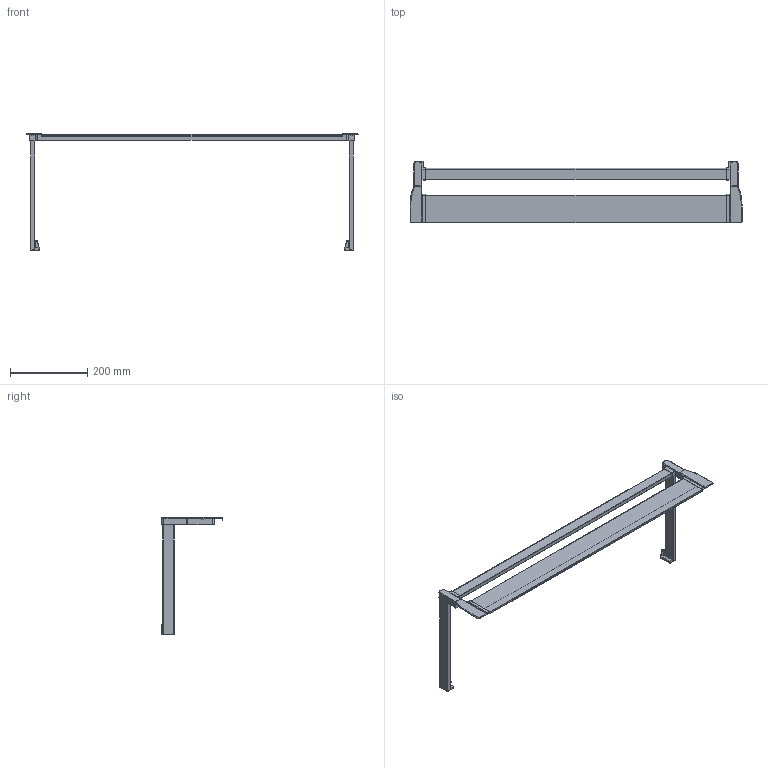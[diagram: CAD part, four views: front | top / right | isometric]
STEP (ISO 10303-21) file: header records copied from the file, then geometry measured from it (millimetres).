
FILE_DESCRIPTION (( 'STEP AP214' ), '1' );
FILE_NAME ('1_P620_NL 300_KAB 900_16er KS_.step', '2009-09-16T06:29:05', ( 'Waldinger Reinhard' ), ( 'Grass GmbH' ), 'SwSTEP 2.0', 'SolidWorks 2009', '' );
FILE_SCHEMA (( 'AUTOMOTIVE_DESIGN' ));
Length unit declared in the file: millimetre
Products named in the file (1): 1_P620_NL 300_KAB 900_16er KS_
Bounding box: 859.6 x 160.5 x 302.8 mm (x, y, z)
Volume: 1206320.7 mm3; surface area: 280940.3 mm2
Topology: 1 solids, 1 shells, 218 faces, 576 edges, 364 vertices
Faces by surface type: plane 97, cylinder 89, torus 28, sphere 2, bspline 2
Entity records: 6974 total; most frequent: CARTESIAN_POINT 1341, DIRECTION 1192, ORIENTED_EDGE 1148, EDGE_CURVE 574, AXIS2_PLACEMENT_3D 431, VERTEX_POINT 364, VECTOR 330, LINE 330
